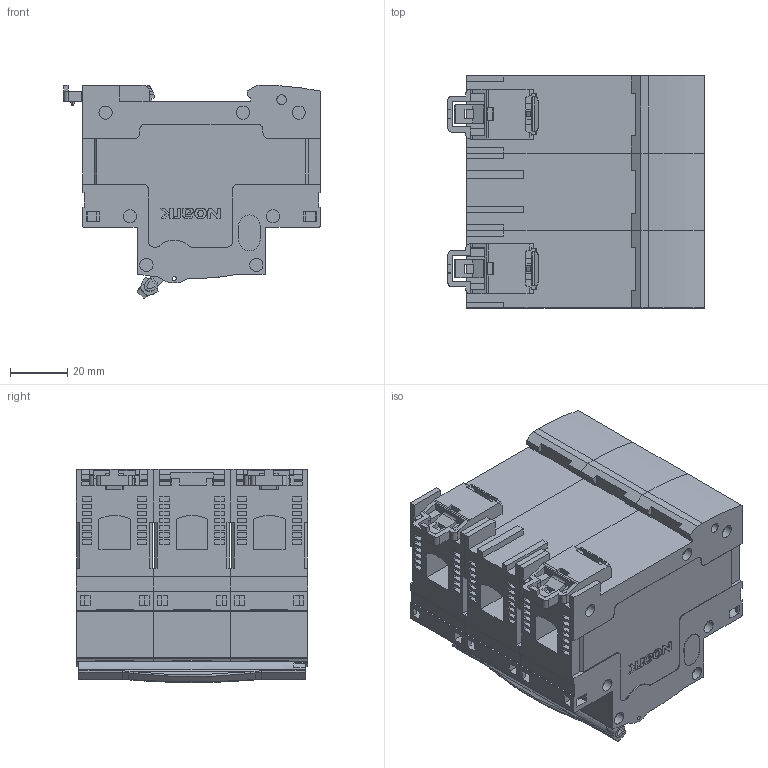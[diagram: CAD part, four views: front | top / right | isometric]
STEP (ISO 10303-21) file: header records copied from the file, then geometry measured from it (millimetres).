
FILE_DESCRIPTION((''),'2;1');
FILE_NAME('3P_ASM','2024-08-29T10:04:55',('zxueq'),(''),'CREO PARAMETRIC BY PTC INC, 2020044','CREO PARAMETRIC BY PTC INC, 2020044','');
FILE_SCHEMA(('CONFIG_CONTROL_DESIGN','SHAPE_APPEARANCE_LAYERS_GROUPS'));
Length unit declared in the file: millimetre
Products named in the file (6): BENTI; 8259B0101103; 8100I0101003; 8270I0101002; 5270I0126001_ASM; 3P_ASM
Assembly tree (8 placements, depth 3):
  3P_ASM
    BENTI  x3
    8259B0101103
    5270I0126001_ASM  x2
      8100I0101003
      8270I0101002
Bounding box: 89.6 x 81 x 74.45 mm (x, y, z)
Volume: 352948 mm3; surface area: 71947.1 mm2
Topology: 8 solids, 8 shells, 2054 faces, 5609 edges, 3718 vertices
Faces by surface type: plane 1424, cylinder 404, extrusion 200, cone 16, bspline 10
Entity records: 30057 total; most frequent: CARTESIAN_POINT 6302, ORIENTED_EDGE 4484, DIRECTION 3986, EDGE_CURVE 2242, VECTOR 1772, LINE 1702, VERTEX_POINT 1480, AXIS2_PLACEMENT_3D 1107
